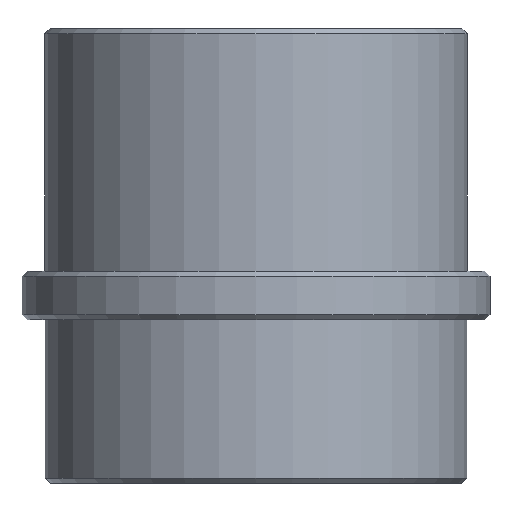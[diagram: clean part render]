
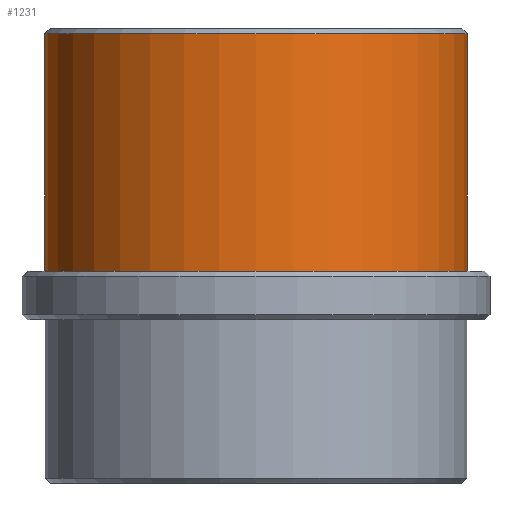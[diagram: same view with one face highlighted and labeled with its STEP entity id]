
A CAD part, front view. The second image highlights one B-rep face of the part: STEP entity #1231.
In plain terms, the highlighted cylindrical face has radius 20.644 mm (diameter 41.288 mm), a partial arc.
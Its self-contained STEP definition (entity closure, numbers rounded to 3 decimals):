
#314=CARTESIAN_POINT('',(0.,0.,27.948));
#315=DIRECTION('',(0.,0.,-1.));
#316=DIRECTION('',(1.,0.,0.));
#317=AXIS2_PLACEMENT_3D('',#314,#315,#316);
#319=DIRECTION('',(0.,0.,-1.));
#320=VECTOR('',#319,23.198);
#321=CARTESIAN_POINT('',(20.644,0.,
27.948));
#322=LINE('',#321,#320);
#323=DIRECTION('',(0.,0.,-1.));
#324=VECTOR('',#323,23.198);
#325=CARTESIAN_POINT('',(-20.644,0.,
27.948));
#326=LINE('',#325,#324);
#1003=CARTESIAN_POINT('',(0.,0.,4.75));
#1004=DIRECTION('',(0.,0.,-1.));
#1005=DIRECTION('',(1.,0.,0.));
#1006=AXIS2_PLACEMENT_3D('',#1003,#1004,#1005);
#1041=CARTESIAN_POINT('',(20.644,0.,4.75));
#1042=CARTESIAN_POINT('',(-20.644,0.,4.75));
#1043=VERTEX_POINT('',#1041);
#1044=VERTEX_POINT('',#1042);
#1075=CARTESIAN_POINT('',(20.644,0.,27.948));
#1076=CARTESIAN_POINT('',(-20.644,0.,27.948));
#1077=VERTEX_POINT('',#1075);
#1078=VERTEX_POINT('',#1076);
#1218=CARTESIAN_POINT('',(0.,0.,-18.225));
#1219=DIRECTION('',(0.,0.,1.));
#1220=DIRECTION('',(-1.,0.,0.));
#1221=AXIS2_PLACEMENT_3D('',#1218,#1219,#1220);
#1222=CYLINDRICAL_SURFACE('',#1221,20.644);
#1224=ORIENTED_EDGE('',*,*,#1223,.F.);
#1225=ORIENTED_EDGE('',*,*,#1213,.T.);
#1227=ORIENTED_EDGE('',*,*,#1226,.T.);
#1228=ORIENTED_EDGE('',*,*,#1209,.F.);
#1229=EDGE_LOOP('',(#1224,#1225,#1227,#1228));
#1230=FACE_OUTER_BOUND('',#1229,.F.);
#1231=ADVANCED_FACE('',(#1230),#1222,.T.);
#318=CIRCLE('',#317,20.644);
#1007=CIRCLE('',#1006,20.644);
#1209=EDGE_CURVE('',#1078,#1044,#326,.T.);
#1213=EDGE_CURVE('',#1077,#1043,#322,.T.);
#1223=EDGE_CURVE('',#1077,#1078,#318,.T.);
#1226=EDGE_CURVE('',#1043,#1044,#1007,.T.);
